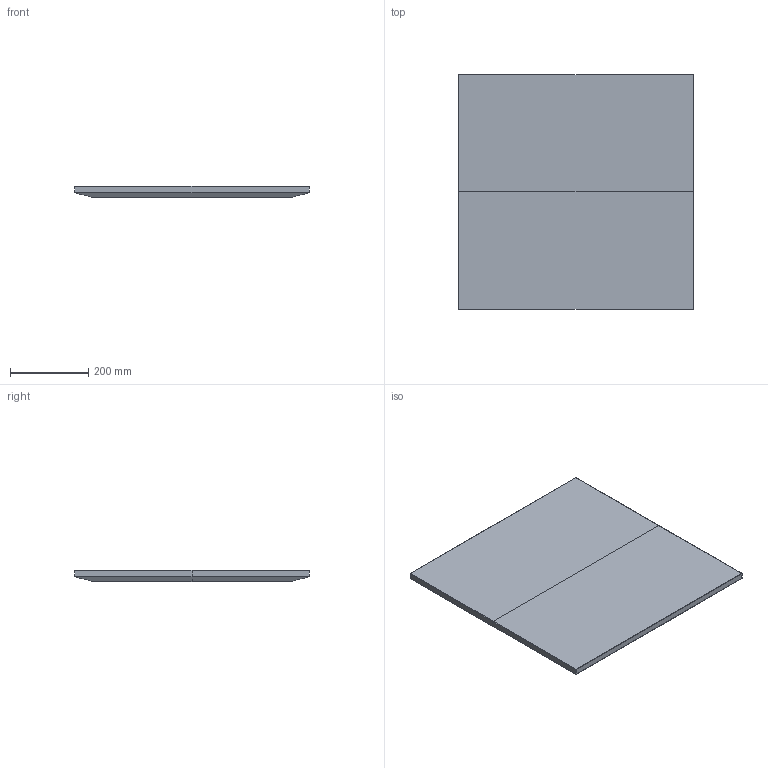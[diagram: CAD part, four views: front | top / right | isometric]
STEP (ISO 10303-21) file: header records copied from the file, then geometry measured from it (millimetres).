
FILE_DESCRIPTION(/* description */ (''),/* implementation_level */ '2;1');
FILE_NAME(/* name */ 'kinoshita_abord_tt009a-600-600',/* time_stamp */ '2024-07-30T15:00:53+09:00',/* author */ (''),/* organization */ (''),/* preprocessor_version */ 'ST-DEVELOPER v16.5',/* originating_system */ '',/* authorisation */ '');
FILE_SCHEMA (('AUTOMOTIVE_DESIGN'));
Length unit declared in the file: millimetre
Products named in the file (1): Document
Bounding box: 600 x 600 x 29 mm (x, y, z)
Volume: 9730338.1 mm3; surface area: 760619.8 mm2
Topology: 1 solids, 1 shells, 38 faces, 88 edges, 52 vertices
Faces by surface type: bspline 22, plane 16
Entity records: 1279 total; most frequent: CARTESIAN_POINT 720, ORIENTED_EDGE 176, EDGE_CURVE 88, B_SPLINE_CURVE_WITH_KNOTS 56, VERTEX_POINT 52, ADVANCED_FACE 38, FACE_OUTER_BOUND 38, EDGE_LOOP 38
